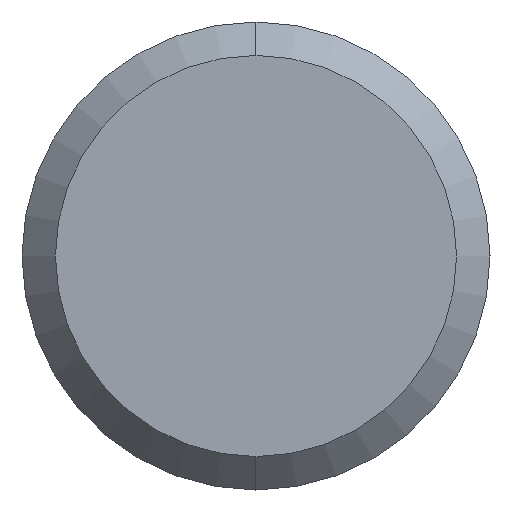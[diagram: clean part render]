
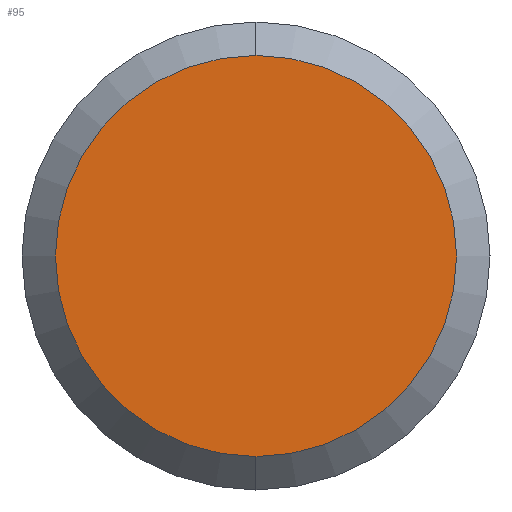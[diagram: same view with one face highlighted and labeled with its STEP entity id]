
A CAD part, left-side view. The second image highlights one B-rep face of the part: STEP entity #95.
In plain terms, the highlighted planar face has unit normal (-1, 0, 0).
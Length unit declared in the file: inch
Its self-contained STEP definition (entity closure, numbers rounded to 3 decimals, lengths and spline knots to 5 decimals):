
#5 = DIRECTION ( 'NONE',  ( 0., 0., 1. ) ) ;
#22 = AXIS2_PLACEMENT_3D ( 'NONE', #472, #315, #284 ) ;
#34 = EDGE_CURVE ( 'NONE', #145, #87, #251, .T. ) ;
#42 = AXIS2_PLACEMENT_3D ( 'NONE', #444, #408, #338 ) ;
#80 = CARTESIAN_POINT ( 'NONE',  ( 0., 0., -0.23622 ) ) ;
#87 = VERTEX_POINT ( 'NONE', #80 ) ;
#88 = ORIENTED_EDGE ( 'NONE', *, *, #34, .F. ) ;
#95 = ADVANCED_FACE ( 'NONE', ( #259 ), #151, .T. ) ;
#145 = VERTEX_POINT ( 'NONE', #377 ) ;
#151 = PLANE ( 'NONE',  #402 ) ;
#198 = EDGE_LOOP ( 'NONE', ( #220, #88 ) ) ;
#220 = ORIENTED_EDGE ( 'NONE', *, *, #410, .F. ) ;
#251 = CIRCLE ( 'NONE', #42, 0.23622 ) ;
#259 = FACE_OUTER_BOUND ( 'NONE', #198, .T. ) ;
#261 = DIRECTION ( 'NONE',  ( -1., 0., 0. ) ) ;
#284 = DIRECTION ( 'NONE',  ( 0., 0., -1. ) ) ;
#298 = CARTESIAN_POINT ( 'NONE',  ( 0., 0.23622, 0. ) ) ;
#315 = DIRECTION ( 'NONE',  ( 1., 0., 0. ) ) ;
#338 = DIRECTION ( 'NONE',  ( 0., 0., -1. ) ) ;
#349 = CIRCLE ( 'NONE', #22, 0.23622 ) ;
#377 = CARTESIAN_POINT ( 'NONE',  ( 0., 0., 0.23622 ) ) ;
#402 = AXIS2_PLACEMENT_3D ( 'NONE', #298, #261, #5 ) ;
#408 = DIRECTION ( 'NONE',  ( 1., 0., 0. ) ) ;
#410 = EDGE_CURVE ( 'NONE', #87, #145, #349, .T. ) ;
#444 = CARTESIAN_POINT ( 'NONE',  ( 0., 0., 0. ) ) ;
#472 = CARTESIAN_POINT ( 'NONE',  ( 0., 0., 0. ) ) ;
